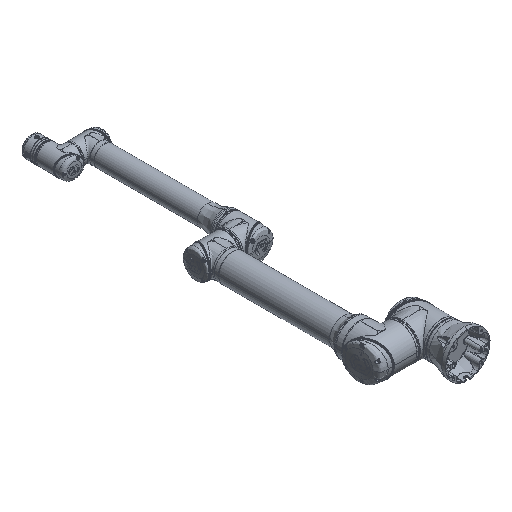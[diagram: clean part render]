
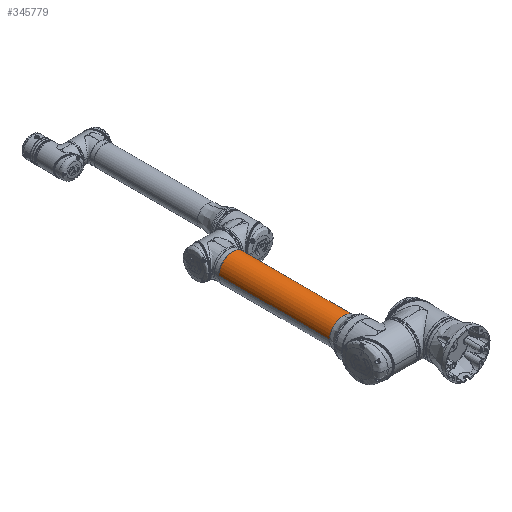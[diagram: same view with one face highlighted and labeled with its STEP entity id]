
A CAD part, isometric view. The second image highlights one B-rep face of the part: STEP entity #345779.
In plain terms, the highlighted cylindrical face has radius 59 mm (diameter 118 mm), a partial arc.
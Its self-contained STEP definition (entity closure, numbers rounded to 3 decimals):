
#33750 = EDGE_CURVE ( 'NONE', #88042, #71647, #489974, .T. ) ;
#34396 = DIRECTION ( 'NONE',  ( 1., 0., 0. ) ) ;
#38241 = DIRECTION ( 'NONE',  ( 0., 0., -1. ) ) ;
#50367 = CARTESIAN_POINT ( 'NONE',  ( 632.1, 0., -59. ) ) ;
#58974 = LINE ( 'NONE', #397838, #259293 ) ;
#62887 = ORIENTED_EDGE ( 'NONE', *, *, #403714, .T. ) ;
#71647 = VERTEX_POINT ( 'NONE', #50367 ) ;
#73394 = CARTESIAN_POINT ( 'NONE',  ( 158.463, 0., 0. ) ) ;
#78843 = DIRECTION ( 'NONE',  ( 1., 0., 0. ) ) ;
#79795 = CARTESIAN_POINT ( 'NONE',  ( 158.463, 0., -59. ) ) ;
#88042 = VERTEX_POINT ( 'NONE', #383024 ) ;
#107150 = ORIENTED_EDGE ( 'NONE', *, *, #360999, .T. ) ;
#119284 = ORIENTED_EDGE ( 'NONE', *, *, #217541, .F. ) ;
#120406 = LINE ( 'NONE', #250925, #378546 ) ;
#186740 = DIRECTION ( 'NONE',  ( 1., 0., 0. ) ) ;
#204599 = EDGE_CURVE ( 'NONE', #236039, #88042, #120406, .T. ) ;
#211750 = CARTESIAN_POINT ( 'NONE',  ( 632.1, 0., 0. ) ) ;
#215839 = DIRECTION ( 'NONE',  ( 1., 0., 0. ) ) ;
#217541 = EDGE_CURVE ( 'NONE', #517025, #71647, #58974, .T. ) ;
#236039 = VERTEX_POINT ( 'NONE', #384540 ) ;
#245536 = DIRECTION ( 'NONE',  ( 0., 0., -1. ) ) ;
#250925 = CARTESIAN_POINT ( 'NONE',  ( 562.7, 0., 59. ) ) ;
#256133 = DIRECTION ( 'NONE',  ( 0., 0., -1. ) ) ;
#259293 = VECTOR ( 'NONE', #186740, 1000. ) ;
#270572 = CIRCLE ( 'NONE', #332415, 59. ) ;
#303332 = ORIENTED_EDGE ( 'NONE', *, *, #33750, .T. ) ;
#317553 = ORIENTED_EDGE ( 'NONE', *, *, #204599, .T. ) ;
#332415 = AXIS2_PLACEMENT_3D ( 'NONE', #418792, #215839, #38241 ) ;
#332969 = FACE_OUTER_BOUND ( 'NONE', #540866, .T. ) ;
#336970 = AXIS2_PLACEMENT_3D ( 'NONE', #455277, #413619, #419091 ) ;
#342240 = DIRECTION ( 'NONE',  ( -1., 0., 0. ) ) ;
#345779 = ADVANCED_FACE ( 'NONE', ( #332969 ), #410889, .T. ) ;
#360999 = EDGE_CURVE ( 'NONE', #505652, #236039, #270572, .T. ) ;
#378546 = VECTOR ( 'NONE', #34396, 1000. ) ;
#383024 = CARTESIAN_POINT ( 'NONE',  ( 632.1, 0., 59. ) ) ;
#384540 = CARTESIAN_POINT ( 'NONE',  ( 158.463, 0., 59. ) ) ;
#392371 = AXIS2_PLACEMENT_3D ( 'NONE', #211750, #342240, #256133 ) ;
#397838 = CARTESIAN_POINT ( 'NONE',  ( 562.7, 0., -59. ) ) ;
#403714 = EDGE_CURVE ( 'NONE', #517025, #505652, #506445, .T. ) ;
#410889 = CYLINDRICAL_SURFACE ( 'NONE', #336970, 59. ) ;
#413619 = DIRECTION ( 'NONE',  ( 1., 0., 0. ) ) ;
#418792 = CARTESIAN_POINT ( 'NONE',  ( 158.463, 0., 0. ) ) ;
#419091 = DIRECTION ( 'NONE',  ( 0., 0., -1. ) ) ;
#455277 = CARTESIAN_POINT ( 'NONE',  ( 562.7, 0., 0. ) ) ;
#479828 = AXIS2_PLACEMENT_3D ( 'NONE', #73394, #78843, #245536 ) ;
#489974 = CIRCLE ( 'NONE', #392371, 59. ) ;
#505652 = VERTEX_POINT ( 'NONE', #521497 ) ;
#506445 = CIRCLE ( 'NONE', #479828, 59. ) ;
#517025 = VERTEX_POINT ( 'NONE', #79795 ) ;
#521497 = CARTESIAN_POINT ( 'NONE',  ( 158.463, 59., 0. ) ) ;
#540866 = EDGE_LOOP ( 'NONE', ( #62887, #107150, #317553, #303332, #119284 ) ) ;
